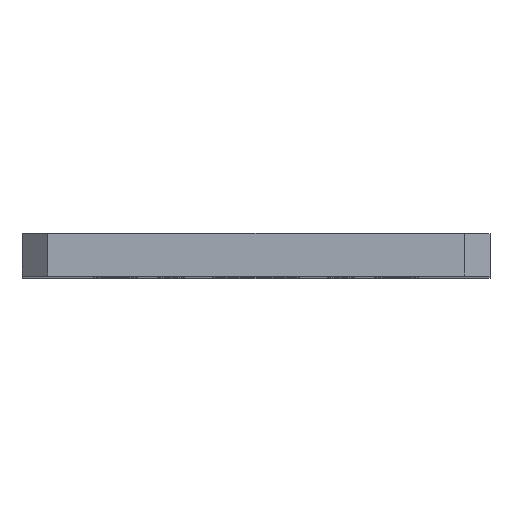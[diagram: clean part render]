
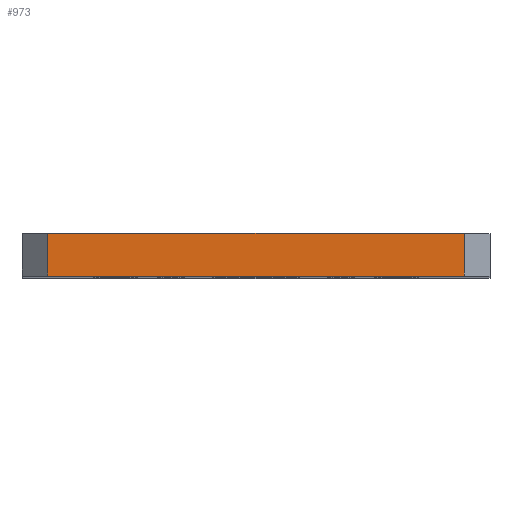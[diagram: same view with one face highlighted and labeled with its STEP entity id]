
A CAD part, top view. The second image highlights one B-rep face of the part: STEP entity #973.
In plain terms, the highlighted planar face has unit normal (0, 0, 1).
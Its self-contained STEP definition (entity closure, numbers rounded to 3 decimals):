
#178=FACE_OUTER_BOUND('',#223,.T.);
#223=EDGE_LOOP('',(#662,#663,#664,#665));
#329=LINE('',#1450,#388);
#330=LINE('',#1452,#389);
#331=LINE('',#1454,#390);
#332=LINE('',#1455,#391);
#388=VECTOR('',#1156,1000.);
#389=VECTOR('',#1157,1000.);
#390=VECTOR('',#1158,1000.);
#391=VECTOR('',#1159,1000.);
#447=VERTEX_POINT('',#1448);
#448=VERTEX_POINT('',#1449);
#449=VERTEX_POINT('',#1451);
#450=VERTEX_POINT('',#1453);
#533=EDGE_CURVE('',#447,#448,#329,.T.);
#534=EDGE_CURVE('',#448,#449,#330,.T.);
#535=EDGE_CURVE('',#450,#449,#331,.T.);
#536=EDGE_CURVE('',#450,#447,#332,.T.);
#662=ORIENTED_EDGE('',*,*,#533,.T.);
#663=ORIENTED_EDGE('',*,*,#534,.T.);
#664=ORIENTED_EDGE('',*,*,#535,.F.);
#665=ORIENTED_EDGE('',*,*,#536,.T.);
#917=PLANE('',#1032);
#973=ADVANCED_FACE('',(#178),#917,.F.);
#1032=AXIS2_PLACEMENT_3D('',#1447,#1154,#1155);
#1154=DIRECTION('center_axis',(0.,0.,-1.));
#1155=DIRECTION('ref_axis',(-1.,0.,0.));
#1156=DIRECTION('',(-1.,0.,0.));
#1157=DIRECTION('',(0.,-1.,0.));
#1158=DIRECTION('',(-1.,0.,0.));
#1159=DIRECTION('',(0.,1.,0.));
#1447=CARTESIAN_POINT('Origin',(27.5,-2.5,37.5));
#1448=CARTESIAN_POINT('',(24.5,2.5,37.5));
#1449=CARTESIAN_POINT('',(-24.5,2.5,37.5));
#1450=CARTESIAN_POINT('',(27.5,2.5,37.5));
#1451=CARTESIAN_POINT('',(-24.5,-2.5,37.5));
#1452=CARTESIAN_POINT('',(-24.5,-2.5,37.5));
#1453=CARTESIAN_POINT('',(24.5,-2.5,37.5));
#1454=CARTESIAN_POINT('',(27.5,-2.5,37.5));
#1455=CARTESIAN_POINT('',(24.5,-2.5,37.5));
